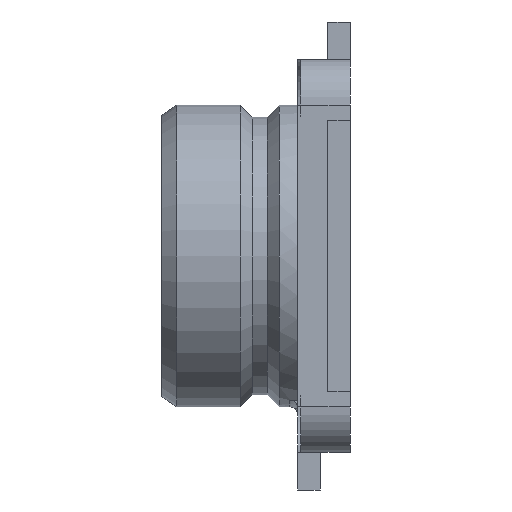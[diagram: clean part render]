
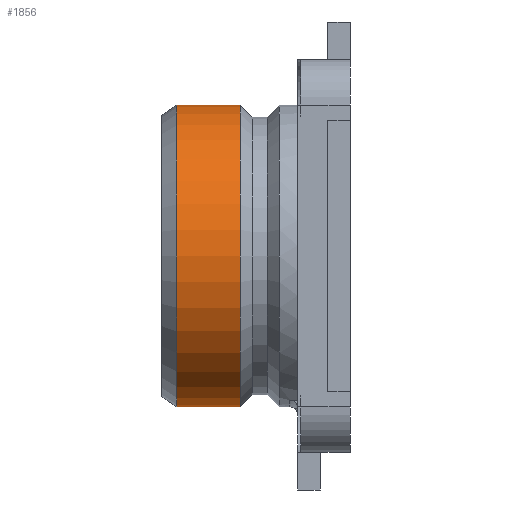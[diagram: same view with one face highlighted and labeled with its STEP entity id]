
A CAD part, left-side view. The second image highlights one B-rep face of the part: STEP entity #1856.
In plain terms, the highlighted cylindrical face has radius 1 mm (diameter 2 mm), a partial arc.
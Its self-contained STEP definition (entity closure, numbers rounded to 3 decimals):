
#27 = ORIENTED_EDGE ( 'NONE', *, *, #2160, .T. ) ;
#36 = DIRECTION ( 'NONE',  ( 0., 1., 0. ) ) ;
#51 = VECTOR ( 'NONE', #36, 1000. ) ;
#58 = DIRECTION ( 'NONE',  ( 0., -1., 0. ) ) ;
#97 = ORIENTED_EDGE ( 'NONE', *, *, #2090, .F. ) ;
#149 = VERTEX_POINT ( 'NONE', #1368 ) ;
#163 = AXIS2_PLACEMENT_3D ( 'NONE', #225, #58, #1417 ) ;
#225 = CARTESIAN_POINT ( 'NONE',  ( 0., 0.73, 0. ) ) ;
#226 = VERTEX_POINT ( 'NONE', #363 ) ;
#296 = LINE ( 'NONE', #819, #815 ) ;
#363 = CARTESIAN_POINT ( 'NONE',  ( 0., 0.73, 1. ) ) ;
#380 = EDGE_LOOP ( 'NONE', ( #27, #862, #97, #747 ) ) ;
#423 = CIRCLE ( 'NONE', #163, 1. ) ;
#747 = ORIENTED_EDGE ( 'NONE', *, *, #906, .T. ) ;
#815 = VECTOR ( 'NONE', #1998, 1000. ) ;
#819 = CARTESIAN_POINT ( 'NONE',  ( 0., 5.328, -1. ) ) ;
#835 = EDGE_CURVE ( 'NONE', #149, #1074, #296, .T. ) ;
#856 = VERTEX_POINT ( 'NONE', #2195 ) ;
#862 = ORIENTED_EDGE ( 'NONE', *, *, #835, .T. ) ;
#903 = CYLINDRICAL_SURFACE ( 'NONE', #1938, 1. ) ;
#904 = LINE ( 'NONE', #1698, #51 ) ;
#906 = EDGE_CURVE ( 'NONE', #226, #856, #904, .T. ) ;
#915 = DIRECTION ( 'NONE',  ( 0., 0., -1. ) ) ;
#927 = DIRECTION ( 'NONE',  ( 0., -1., 0. ) ) ;
#998 = CIRCLE ( 'NONE', #1367, 1. ) ;
#1074 = VERTEX_POINT ( 'NONE', #1619 ) ;
#1254 = FACE_OUTER_BOUND ( 'NONE', #380, .T. ) ;
#1367 = AXIS2_PLACEMENT_3D ( 'NONE', #2147, #927, #1778 ) ;
#1368 = CARTESIAN_POINT ( 'NONE',  ( 0., 1.15, -1. ) ) ;
#1417 = DIRECTION ( 'NONE',  ( 0., 0., -1. ) ) ;
#1619 = CARTESIAN_POINT ( 'NONE',  ( 0., 0.73, -1. ) ) ;
#1626 = DIRECTION ( 'NONE',  ( 0., -1., 0. ) ) ;
#1698 = CARTESIAN_POINT ( 'NONE',  ( 0., 0.35, 1. ) ) ;
#1778 = DIRECTION ( 'NONE',  ( 0., 0., 1. ) ) ;
#1856 = ADVANCED_FACE ( 'NONE', ( #1254 ), #903, .T. ) ;
#1938 = AXIS2_PLACEMENT_3D ( 'NONE', #1941, #1626, #915 ) ;
#1941 = CARTESIAN_POINT ( 'NONE',  ( 0., 5.328, 0. ) ) ;
#1998 = DIRECTION ( 'NONE',  ( 0., -1., 0. ) ) ;
#2090 = EDGE_CURVE ( 'NONE', #226, #1074, #423, .T. ) ;
#2147 = CARTESIAN_POINT ( 'NONE',  ( 0., 1.15, 0. ) ) ;
#2160 = EDGE_CURVE ( 'NONE', #856, #149, #998, .T. ) ;
#2195 = CARTESIAN_POINT ( 'NONE',  ( 0., 1.15, 1. ) ) ;
